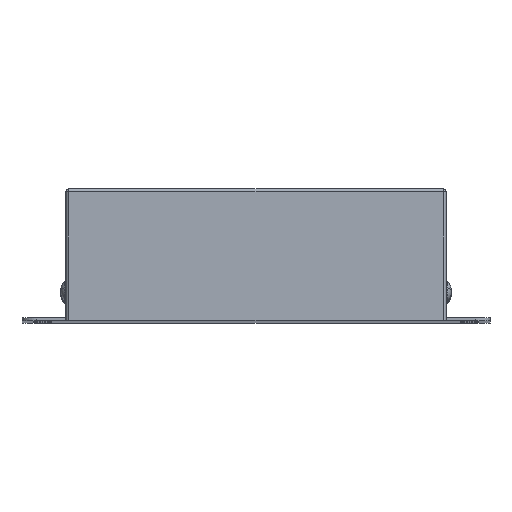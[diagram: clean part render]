
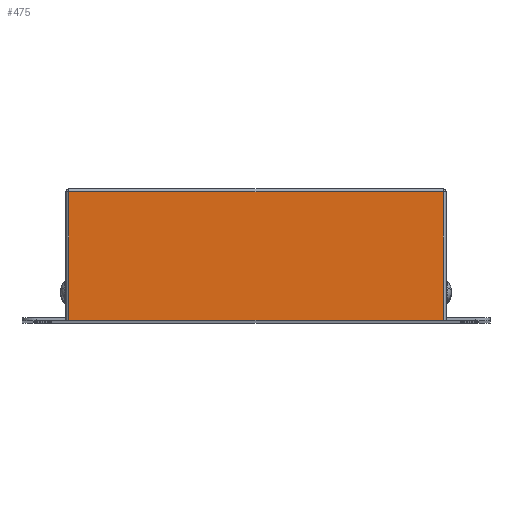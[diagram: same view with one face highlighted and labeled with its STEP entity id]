
A CAD part, top view. The second image highlights one B-rep face of the part: STEP entity #475.
In plain terms, the highlighted planar face has unit normal (0, 0, 1).
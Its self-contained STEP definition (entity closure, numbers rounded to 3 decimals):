
#114 = VERTEX_POINT ( 'NONE', #446 ) ;
#181 = CARTESIAN_POINT ( 'NONE',  ( -65., 44., 265. ) ) ;
#446 = CARTESIAN_POINT ( 'NONE',  ( 64., 44., 265. ) ) ;
#475 = ADVANCED_FACE ( 'NONE', ( #589 ), #1907, .T. ) ;
#496 = LINE ( 'NONE', #181, #769 ) ;
#542 = DIRECTION ( 'NONE',  ( 0., -1., 0. ) ) ;
#550 = DIRECTION ( 'NONE',  ( 1., 0., 0. ) ) ;
#581 = LINE ( 'NONE', #2818, #4195 ) ;
#589 = FACE_OUTER_BOUND ( 'NONE', #1897, .T. ) ;
#604 = CARTESIAN_POINT ( 'NONE',  ( 64., 0., 265. ) ) ;
#669 = CARTESIAN_POINT ( 'NONE',  ( 64., 0., 265. ) ) ;
#677 = VERTEX_POINT ( 'NONE', #3823 ) ;
#769 = VECTOR ( 'NONE', #1485, 1000. ) ;
#842 = AXIS2_PLACEMENT_3D ( 'NONE', #3241, #1574, #1251 ) ;
#1218 = ORIENTED_EDGE ( 'NONE', *, *, #3000, .T. ) ;
#1251 = DIRECTION ( 'NONE',  ( 1., 0., 0. ) ) ;
#1260 = VECTOR ( 'NONE', #550, 1000. ) ;
#1290 = LINE ( 'NONE', #669, #2927 ) ;
#1485 = DIRECTION ( 'NONE',  ( -1., 0., 0. ) ) ;
#1506 = VERTEX_POINT ( 'NONE', #2525 ) ;
#1574 = DIRECTION ( 'NONE',  ( 0., 0., 1. ) ) ;
#1885 = EDGE_CURVE ( 'NONE', #114, #1506, #496, .T. ) ;
#1897 = EDGE_LOOP ( 'NONE', ( #2067, #4283, #1218, #3289 ) ) ;
#1907 = PLANE ( 'NONE',  #842 ) ;
#2067 = ORIENTED_EDGE ( 'NONE', *, *, #1885, .T. ) ;
#2124 = EDGE_CURVE ( 'NONE', #3040, #114, #1290, .T. ) ;
#2525 = CARTESIAN_POINT ( 'NONE',  ( -64., 44., 265. ) ) ;
#2818 = CARTESIAN_POINT ( 'NONE',  ( -64., 0., 265. ) ) ;
#2927 = VECTOR ( 'NONE', #2969, 1000. ) ;
#2969 = DIRECTION ( 'NONE',  ( 0., 1., 0. ) ) ;
#3000 = EDGE_CURVE ( 'NONE', #677, #3040, #4153, .T. ) ;
#3040 = VERTEX_POINT ( 'NONE', #604 ) ;
#3179 = CARTESIAN_POINT ( 'NONE',  ( -65., 0., 265. ) ) ;
#3241 = CARTESIAN_POINT ( 'NONE',  ( -65., 0., 265. ) ) ;
#3274 = EDGE_CURVE ( 'NONE', #1506, #677, #581, .T. ) ;
#3289 = ORIENTED_EDGE ( 'NONE', *, *, #2124, .T. ) ;
#3823 = CARTESIAN_POINT ( 'NONE',  ( -64., 0., 265. ) ) ;
#4153 = LINE ( 'NONE', #3179, #1260 ) ;
#4195 = VECTOR ( 'NONE', #542, 1000. ) ;
#4283 = ORIENTED_EDGE ( 'NONE', *, *, #3274, .T. ) ;
